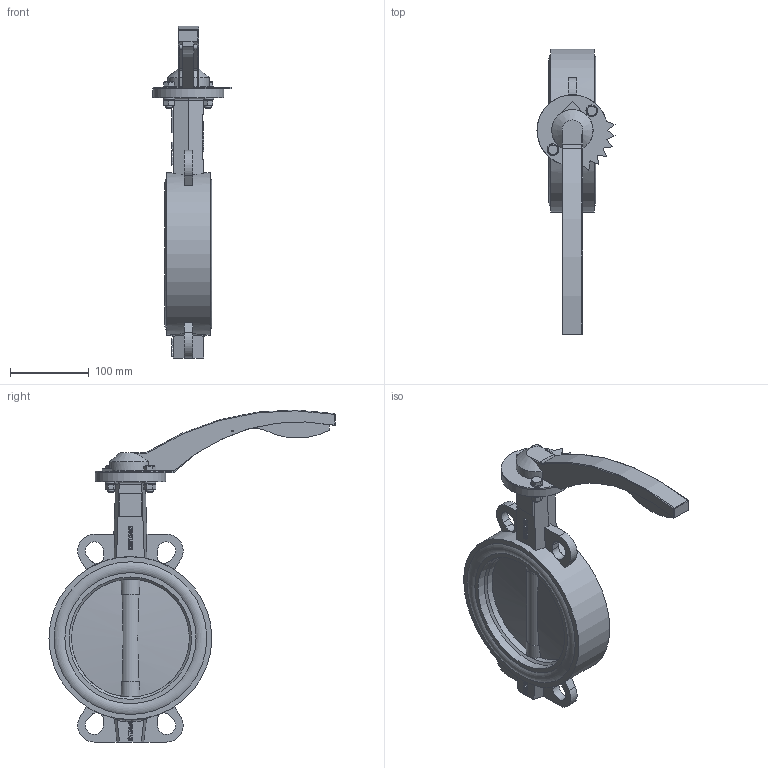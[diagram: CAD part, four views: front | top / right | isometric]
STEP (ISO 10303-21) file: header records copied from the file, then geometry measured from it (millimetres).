
FILE_DESCRIPTION(('STEP AP242'), '1');
FILE_NAME('Ïîâîðîòíûé çàòâîð ïîä ýëåêòðîïðèâîä', '', ('UNSPECIFIED'), ('UNSPECIFIED'), 'C3D Converter', 'C3D Toolkit', '');
FILE_SCHEMA(('AP242_MANAGED_MODEL_BASED_3D_ENGINEERING_MIM_LF { 1 0 10303 442 1 1 4 }'));
Length unit declared in the file: millimetre
Products named in the file (14): П
Assembly tree (20 placements, depth 3):
  (unnamed)
    (unnamed)
    П  x2
    (unnamed)
    (unnamed)
    (unnamed)
    (unnamed)
      (unnamed)
      (unnamed)
      (unnamed)
    (unnamed)  x2
    (unnamed)  x4
    (unnamed)  x2
    (unnamed)  x2
Bounding box: 99.15 x 363.5 x 421.95 mm (x, y, z)
Volume: 1573006.5 mm3; surface area: 405858.7 mm2
Topology: 19 solids, 19 shells, 578 faces, 1469 edges, 956 vertices
Faces by surface type: plane 299, extrusion 139, cylinder 100, cone 18, torus 10, bspline 6, sphere 6
Full cylindrical faces by diameter (mm): 2 x2, 3 x2, 6 x2, 6.647 x2, 8 x2, 9 x4, 10 x6, 11.421 x1, 15 x4, 17 x6, 24.042 x5, 26.41 x4, 26.87 x1, 90 x1, 150 x1, 155.56 x2, 166.68 x2, 180.353 x4, 194.027 x4, 207 x1
Entity records: 22640 total; most frequent: CARTESIAN_POINT 7502, ORIENTED_EDGE 2618, DIRECTION 2110, EDGE_CURVE 1309, VERTEX_POINT 896, VECTOR 846, LINE 707, EDGE_LOOP 667
